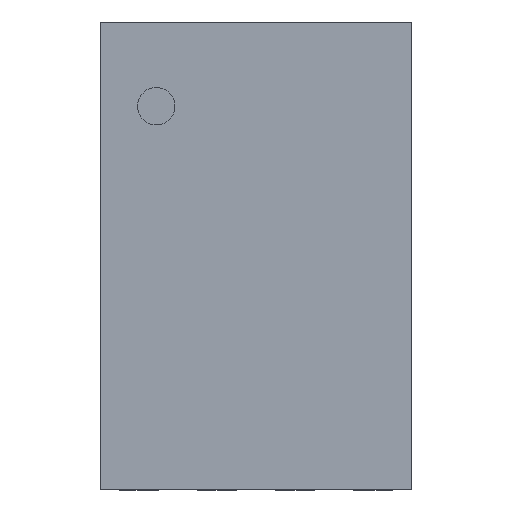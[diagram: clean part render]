
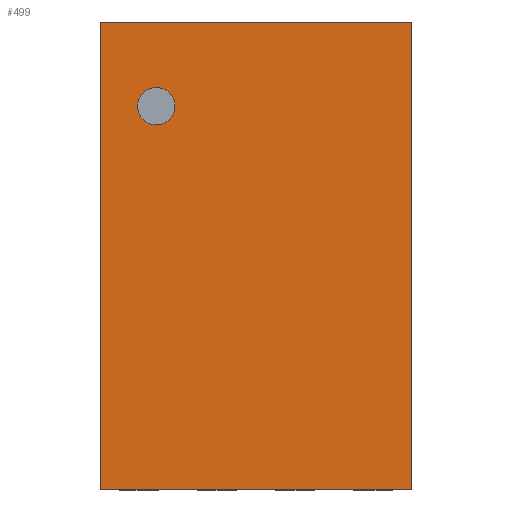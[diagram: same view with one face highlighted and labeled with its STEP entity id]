
A CAD part, top view. The second image highlights one B-rep face of the part: STEP entity #499.
In plain terms, the highlighted planar face has unit normal (0, 0, 1).
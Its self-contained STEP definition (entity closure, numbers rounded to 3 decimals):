
#47 = EDGE_CURVE('',#48,#50,#52,.T.);
#48 = VERTEX_POINT('',#49);
#49 = CARTESIAN_POINT('',(-1.,-1.5,1.));
#50 = VERTEX_POINT('',#51);
#51 = CARTESIAN_POINT('',(-1.,1.5,1.));
#52 = SURFACE_CURVE('',#53,(#57,#69),.PCURVE_S1.);
#53 = LINE('',#54,#55);
#54 = CARTESIAN_POINT('',(-1.,-1.5,1.));
#55 = VECTOR('',#56,1.);
#56 = DIRECTION('',(0.,1.,0.));
#57 = PCURVE('',#58,#63);
#58 = PLANE('',#59);
#59 = AXIS2_PLACEMENT_3D('',#60,#61,#62);
#60 = CARTESIAN_POINT('',(-1.,-1.5,0.025));
#61 = DIRECTION('',(1.,0.,0.));
#62 = DIRECTION('',(0.,0.,1.));
#63 = DEFINITIONAL_REPRESENTATION('',(#64),#68);
#64 = LINE('',#65,#66);
#65 = CARTESIAN_POINT('',(0.975,0.));
#66 = VECTOR('',#67,1.);
#67 = DIRECTION('',(0.,-1.));
#68 = ( GEOMETRIC_REPRESENTATION_CONTEXT(2) 
PARAMETRIC_REPRESENTATION_CONTEXT() REPRESENTATION_CONTEXT('2D SPACE',''
  ) );
#69 = PCURVE('',#70,#75);
#70 = PLANE('',#71);
#71 = AXIS2_PLACEMENT_3D('',#72,#73,#74);
#72 = CARTESIAN_POINT('',(-1.,-1.5,1.));
#73 = DIRECTION('',(0.,0.,1.));
#74 = DIRECTION('',(1.,0.,0.));
#75 = DEFINITIONAL_REPRESENTATION('',(#76),#80);
#76 = LINE('',#77,#78);
#77 = CARTESIAN_POINT('',(0.,0.));
#78 = VECTOR('',#79,1.);
#79 = DIRECTION('',(0.,1.));
#80 = ( GEOMETRIC_REPRESENTATION_CONTEXT(2) 
PARAMETRIC_REPRESENTATION_CONTEXT() REPRESENTATION_CONTEXT('2D SPACE',''
  ) );
#98 = PLANE('',#99);
#99 = AXIS2_PLACEMENT_3D('',#100,#101,#102);
#100 = CARTESIAN_POINT('',(-1.,-1.5,0.025));
#101 = DIRECTION('',(0.,1.,0.));
#102 = DIRECTION('',(0.,0.,1.));
#488 = PLANE('',#489);
#489 = AXIS2_PLACEMENT_3D('',#490,#491,#492);
#490 = CARTESIAN_POINT('',(-1.,1.5,0.025));
#491 = DIRECTION('',(0.,1.,0.));
#492 = DIRECTION('',(0.,0.,1.));
#499 = ADVANCED_FACE('',(#500,#575),#70,.T.);
#500 = FACE_BOUND('',#501,.T.);
#501 = EDGE_LOOP('',(#502,#503,#526,#554));
#502 = ORIENTED_EDGE('',*,*,#47,.F.);
#503 = ORIENTED_EDGE('',*,*,#504,.T.);
#504 = EDGE_CURVE('',#48,#505,#507,.T.);
#505 = VERTEX_POINT('',#506);
#506 = CARTESIAN_POINT('',(1.,-1.5,1.));
#507 = SURFACE_CURVE('',#508,(#512,#519),.PCURVE_S1.);
#508 = LINE('',#509,#510);
#509 = CARTESIAN_POINT('',(-1.,-1.5,1.));
#510 = VECTOR('',#511,1.);
#511 = DIRECTION('',(1.,0.,0.));
#512 = PCURVE('',#70,#513);
#513 = DEFINITIONAL_REPRESENTATION('',(#514),#518);
#514 = LINE('',#515,#516);
#515 = CARTESIAN_POINT('',(0.,0.));
#516 = VECTOR('',#517,1.);
#517 = DIRECTION('',(1.,0.));
#518 = ( GEOMETRIC_REPRESENTATION_CONTEXT(2) 
PARAMETRIC_REPRESENTATION_CONTEXT() REPRESENTATION_CONTEXT('2D SPACE',''
  ) );
#519 = PCURVE('',#98,#520);
#520 = DEFINITIONAL_REPRESENTATION('',(#521),#525);
#521 = LINE('',#522,#523);
#522 = CARTESIAN_POINT('',(0.975,0.));
#523 = VECTOR('',#524,1.);
#524 = DIRECTION('',(0.,1.));
#525 = ( GEOMETRIC_REPRESENTATION_CONTEXT(2) 
PARAMETRIC_REPRESENTATION_CONTEXT() REPRESENTATION_CONTEXT('2D SPACE',''
  ) );
#526 = ORIENTED_EDGE('',*,*,#527,.T.);
#527 = EDGE_CURVE('',#505,#528,#530,.T.);
#528 = VERTEX_POINT('',#529);
#529 = CARTESIAN_POINT('',(1.,1.5,1.));
#530 = SURFACE_CURVE('',#531,(#535,#542),.PCURVE_S1.);
#531 = LINE('',#532,#533);
#532 = CARTESIAN_POINT('',(1.,-1.5,1.));
#533 = VECTOR('',#534,1.);
#534 = DIRECTION('',(0.,1.,0.));
#535 = PCURVE('',#70,#536);
#536 = DEFINITIONAL_REPRESENTATION('',(#537),#541);
#537 = LINE('',#538,#539);
#538 = CARTESIAN_POINT('',(2.,0.));
#539 = VECTOR('',#540,1.);
#540 = DIRECTION('',(0.,1.));
#541 = ( GEOMETRIC_REPRESENTATION_CONTEXT(2) 
PARAMETRIC_REPRESENTATION_CONTEXT() REPRESENTATION_CONTEXT('2D SPACE',''
  ) );
#542 = PCURVE('',#543,#548);
#543 = PLANE('',#544);
#544 = AXIS2_PLACEMENT_3D('',#545,#546,#547);
#545 = CARTESIAN_POINT('',(1.,-1.5,0.025));
#546 = DIRECTION('',(1.,0.,0.));
#547 = DIRECTION('',(0.,0.,1.));
#548 = DEFINITIONAL_REPRESENTATION('',(#549),#553);
#549 = LINE('',#550,#551);
#550 = CARTESIAN_POINT('',(0.975,0.));
#551 = VECTOR('',#552,1.);
#552 = DIRECTION('',(0.,-1.));
#553 = ( GEOMETRIC_REPRESENTATION_CONTEXT(2) 
PARAMETRIC_REPRESENTATION_CONTEXT() REPRESENTATION_CONTEXT('2D SPACE',''
  ) );
#554 = ORIENTED_EDGE('',*,*,#555,.F.);
#555 = EDGE_CURVE('',#50,#528,#556,.T.);
#556 = SURFACE_CURVE('',#557,(#561,#568),.PCURVE_S1.);
#557 = LINE('',#558,#559);
#558 = CARTESIAN_POINT('',(-1.,1.5,1.));
#559 = VECTOR('',#560,1.);
#560 = DIRECTION('',(1.,0.,0.));
#561 = PCURVE('',#70,#562);
#562 = DEFINITIONAL_REPRESENTATION('',(#563),#567);
#563 = LINE('',#564,#565);
#564 = CARTESIAN_POINT('',(0.,3.));
#565 = VECTOR('',#566,1.);
#566 = DIRECTION('',(1.,0.));
#567 = ( GEOMETRIC_REPRESENTATION_CONTEXT(2) 
PARAMETRIC_REPRESENTATION_CONTEXT() REPRESENTATION_CONTEXT('2D SPACE',''
  ) );
#568 = PCURVE('',#488,#569);
#569 = DEFINITIONAL_REPRESENTATION('',(#570),#574);
#570 = LINE('',#571,#572);
#571 = CARTESIAN_POINT('',(0.975,0.));
#572 = VECTOR('',#573,1.);
#573 = DIRECTION('',(0.,1.));
#574 = ( GEOMETRIC_REPRESENTATION_CONTEXT(2) 
PARAMETRIC_REPRESENTATION_CONTEXT() REPRESENTATION_CONTEXT('2D SPACE',''
  ) );
#575 = FACE_BOUND('',#576,.T.);
#576 = EDGE_LOOP('',(#577));
#577 = ORIENTED_EDGE('',*,*,#578,.F.);
#578 = EDGE_CURVE('',#579,#579,#581,.T.);
#579 = VERTEX_POINT('',#580);
#580 = CARTESIAN_POINT('',(-0.52,0.96,1.));
#581 = SURFACE_CURVE('',#582,(#587,#594),.PCURVE_S1.);
#582 = CIRCLE('',#583,0.12);
#583 = AXIS2_PLACEMENT_3D('',#584,#585,#586);
#584 = CARTESIAN_POINT('',(-0.64,0.96,1.));
#585 = DIRECTION('',(0.,0.,1.));
#586 = DIRECTION('',(1.,0.,0.));
#587 = PCURVE('',#70,#588);
#588 = DEFINITIONAL_REPRESENTATION('',(#589),#593);
#589 = CIRCLE('',#590,0.12);
#590 = AXIS2_PLACEMENT_2D('',#591,#592);
#591 = CARTESIAN_POINT('',(0.36,2.46));
#592 = DIRECTION('',(1.,0.));
#593 = ( GEOMETRIC_REPRESENTATION_CONTEXT(2) 
PARAMETRIC_REPRESENTATION_CONTEXT() REPRESENTATION_CONTEXT('2D SPACE',''
  ) );
#594 = PCURVE('',#595,#600);
#595 = CYLINDRICAL_SURFACE('',#596,0.12);
#596 = AXIS2_PLACEMENT_3D('',#597,#598,#599);
#597 = CARTESIAN_POINT('',(-0.64,0.96,0.994));
#598 = DIRECTION('',(-0.,-0.,-1.));
#599 = DIRECTION('',(1.,0.,0.));
#600 = DEFINITIONAL_REPRESENTATION('',(#601),#605);
#601 = LINE('',#602,#603);
#602 = CARTESIAN_POINT('',(-0.,-0.006));
#603 = VECTOR('',#604,1.);
#604 = DIRECTION('',(-1.,0.));
#605 = ( GEOMETRIC_REPRESENTATION_CONTEXT(2) 
PARAMETRIC_REPRESENTATION_CONTEXT() REPRESENTATION_CONTEXT('2D SPACE',''
  ) );
